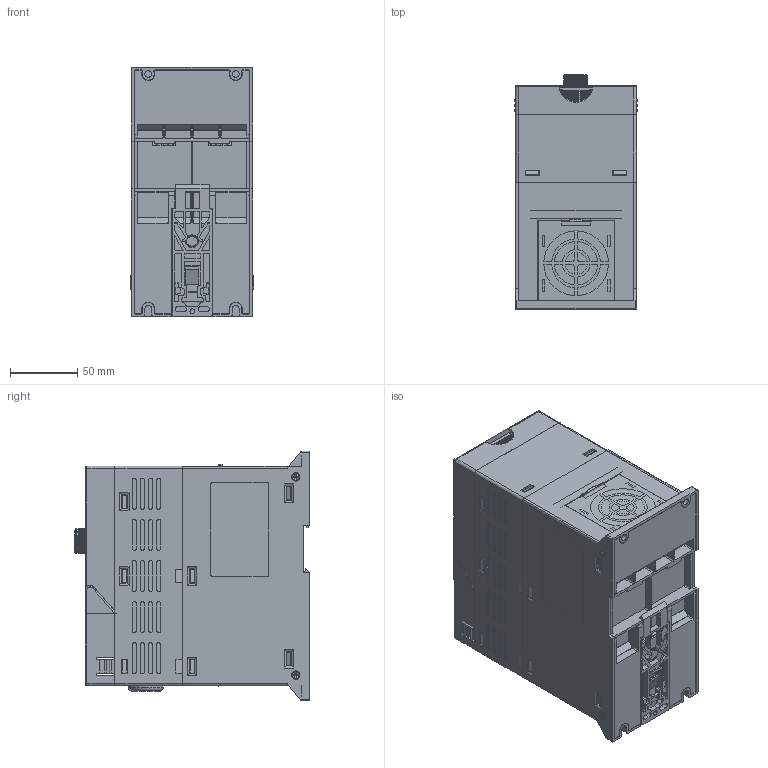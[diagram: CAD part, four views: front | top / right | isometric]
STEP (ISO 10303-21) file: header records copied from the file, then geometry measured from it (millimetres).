
FILE_DESCRIPTION((''),'2;1');
FILE_NAME('1R5KW_ASM_ASM','2022-07-15T',('Administrator'),(''),'PRO/ENGINEER BY PARAMETRIC TECHNOLOGY CORPORATION, 2009440','PRO/ENGINEER BY PARAMETRIC TECHNOLOGY CORPORATION, 2009440','');
FILE_SCHEMA(('AUTOMOTIVE_DESIGN_CC2 { 1 2 10303 214 -1 1 5 2 }'));
Products named in the file (24): PRT0001_3; PRT0002_3; PRT0003_3; PRT0004_1; 5G3DF3S005_ASM_10_ASM_ASM_ASM_A_ASM; PRT0005_3; PRT0007_3; 5G3DF3S001_ASM_3_ASM_ASM_ASM_AS_ASM; PRT0009_3; 5G3BC1F001_ASM_50_ASM_ASM_ASM_A_ASM; PRT0014_1; PRT0015_1; PRT0016_1; PRT0017_1; KEY_PI500__ASM_4_ASM_ASM_ASM_AS_ASM; PRT0018_1; BT_BOM_1R5KW_ASM_4_ASM_ASM_ASM__ASM; PRT0019_2; 1R5KW_ASM_50_ASM_ASM_ASM_ASM_AS_ASM; 5G3DF3S002B; 5G3DF13R002; 5G3DF3S007; FAN_50X50X20_; 1R5KW_ASM_ASM
Assembly tree (26 placements, depth 5):
  1R5KW_ASM_ASM
    1R5KW_ASM_50_ASM_ASM_ASM_ASM_AS_ASM
      5G3BC1F001_ASM_50_ASM_ASM_ASM_A_ASM
        PRT0001_3
        PRT0002_3
        5G3DF3S005_ASM_10_ASM_ASM_ASM_A_ASM
          PRT0003_3
          PRT0004_1
        PRT0005_3
        5G3DF3S001_ASM_3_ASM_ASM_ASM_AS_ASM
          PRT0007_3
        PRT0009_3
      KEY_PI500__ASM_4_ASM_ASM_ASM_AS_ASM
        PRT0014_1
        PRT0015_1
        PRT0016_1
        PRT0017_1
      BT_BOM_1R5KW_ASM_4_ASM_ASM_ASM__ASM
        PRT0018_1  x4
      PRT0019_2
    5G3DF3S002B
    5G3DF13R002
    5G3DF3S007
    FAN_50X50X20_
Bounding box: 91.5 x 174 x 185 mm (x, y, z)
Volume: 414636.1 mm3; surface area: 519139.8 mm2
Topology: 20 solids, 75 shells, 7858 faces, 40474 edges, 36899 vertices
Faces by surface type: plane 6356, cylinder 1073, torus 104, cone 101, bspline 100, extrusion 70, sphere 52, revolution 2
Entity records: 445191 total; most frequent: CARTESIAN_POINT 95064, DIRECTION 54370, ORIENTED_EDGE 45600, VECTOR 33176, LINE 33106, EDGE_CURVE 23694, PRESENTATION_STYLE_ASSIGNMENT 20936, STYLED_ITEM 20929
